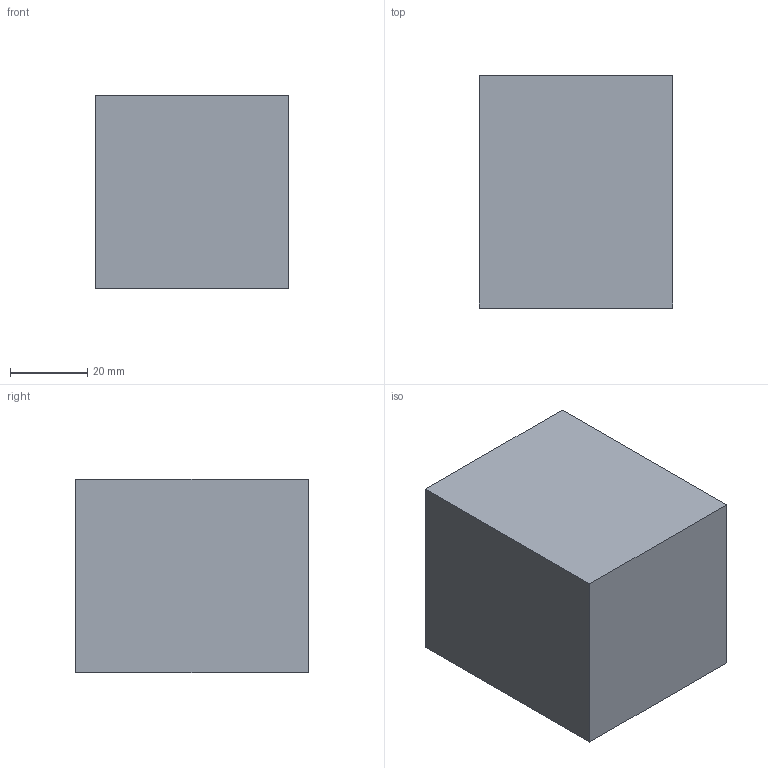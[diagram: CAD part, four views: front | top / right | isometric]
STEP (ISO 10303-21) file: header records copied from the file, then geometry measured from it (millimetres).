
FILE_DESCRIPTION (( 'STEP AP214' ), '1' );
FILE_NAME ('2_13_1049_PU16-2.STEP', '2026-01-27T07:38:05', ( '' ), ( '' ), 'SwSTEP 2.0', 'SolidWorks 2024', '' );
FILE_SCHEMA (( 'AUTOMOTIVE_DESIGN' ));
Length unit declared in the file: millimetre
Products named in the file (1): 2_13_1049_PU16-2
Bounding box: 50 x 60 x 50 mm (x, y, z)
Volume: 110127.7 mm3; surface area: 21757.2 mm2
Topology: 1 solids, 1 shells, 27 faces, 56 edges, 31 vertices
Faces by surface type: cone 10, cylinder 8, plane 7, torus 2
Entity records: 715 total; most frequent: DIRECTION 134, CARTESIAN_POINT 113, ORIENTED_EDGE 108, EDGE_CURVE 54, AXIS2_PLACEMENT_3D 52, VERTEX_POINT 31, LINE 30, VECTOR 30
